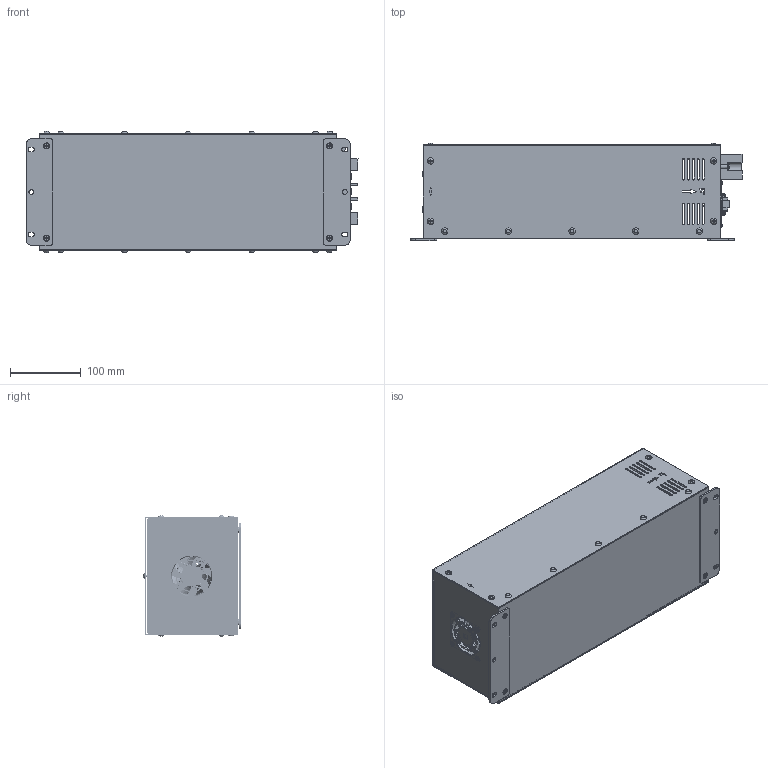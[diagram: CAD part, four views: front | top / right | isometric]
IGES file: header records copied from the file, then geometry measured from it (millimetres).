
Global section: file name: VX2COM_2023.02; native system: Autodesk Inventor 2021; preprocessor: unknown; author: eunsol jang; date: 20230227.113009; units: inch
Bounding box: 468 x 137.59 x 171.09 mm (x, y, z)
Volume: 542187.8 mm3; surface area: 690546.7 mm2
Topology: 11 solids, 11 shells, 3125 faces, 9718 edges, 6924 vertices
Faces by surface type: bspline 3125
